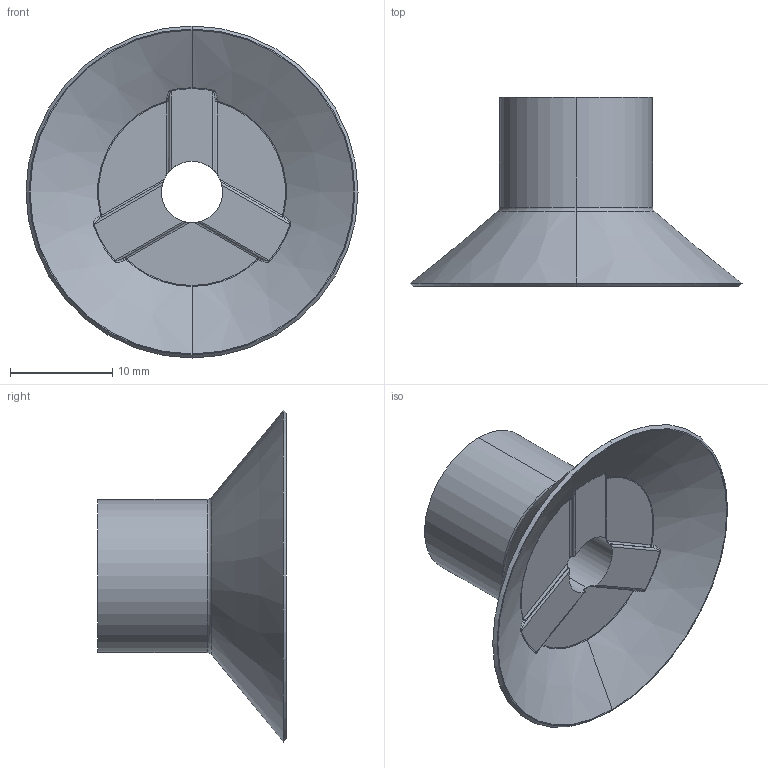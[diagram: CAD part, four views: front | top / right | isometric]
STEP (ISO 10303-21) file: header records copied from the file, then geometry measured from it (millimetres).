
FILE_DESCRIPTION (( 'STEP AP203' ), '1' );
FILE_NAME ('70A_34--A.STEP', '2016-10-04T09:46:27', ( '' ), ( '' ), 'SwSTEP 2.0', 'SolidWorks 2016', '' );
FILE_SCHEMA (( 'CONFIG_CONTROL_DESIGN' ));
Length unit declared in the file: millimetre
Products named in the file (1): 70A_34--A
Bounding box: 32.5 x 18.5 x 32.5 mm (x, y, z)
Volume: 3379.4 mm3; surface area: 2694 mm2
Topology: 1 solids, 1 shells, 66 faces, 158 edges, 88 vertices
Faces by surface type: cylinder 16, plane 14, torus 12, bspline 12, cone 6, sphere 6
Entity records: 2293 total; most frequent: CARTESIAN_POINT 787, ORIENTED_EDGE 304, DIRECTION 302, EDGE_CURVE 152, AXIS2_PLACEMENT_3D 131, VERTEX_POINT 88, CIRCLE 76, EDGE_LOOP 68
